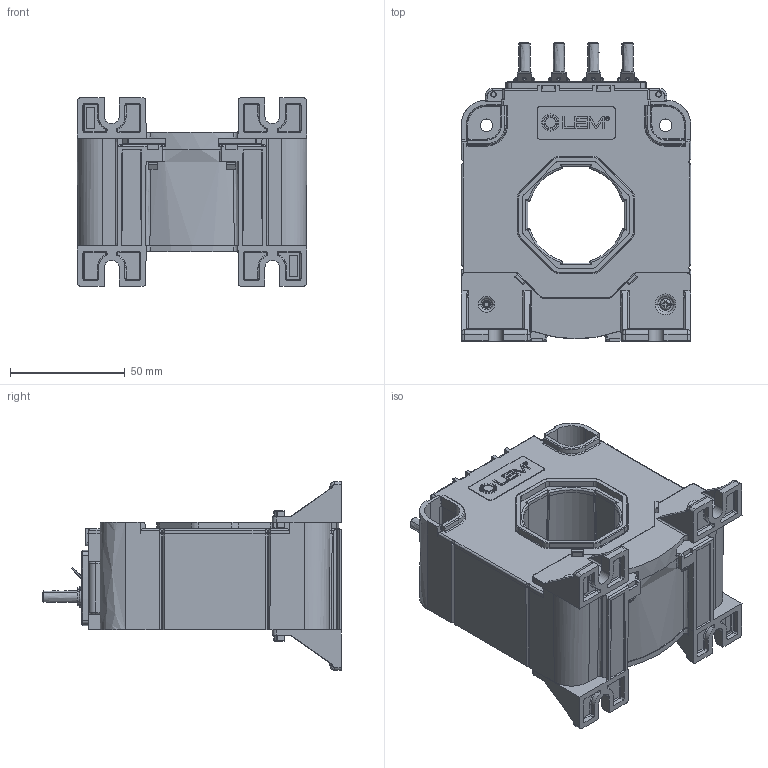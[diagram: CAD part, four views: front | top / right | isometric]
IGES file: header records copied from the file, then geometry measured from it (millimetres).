
Start section: Elysium IGES Interface
Global section: file name: C:\Documents and Settings\pmo\Desktop\LTC 1000 SF blackbox.igs; native system: SolidDesigner 16.00A  16-Aug-2008; preprocessor: CoCreate IGES_3D V2.2; author: Unknown; organization: Unknown; date: 20100128.154055; units: millimetre
Bounding box: 100.14 x 130 x 82 mm (x, y, z)
Volume: 131335.9 mm3; surface area: 123859.4 mm2
Topology: 1 solids, 3 shells, 3255 faces, 8707 edges, 5494 vertices
Faces by surface type: bspline 3255
